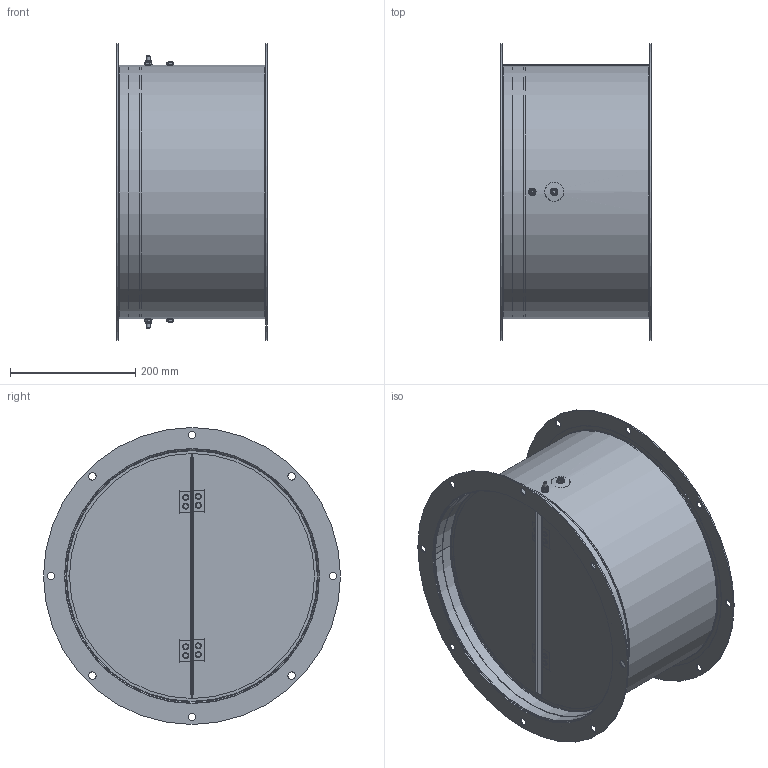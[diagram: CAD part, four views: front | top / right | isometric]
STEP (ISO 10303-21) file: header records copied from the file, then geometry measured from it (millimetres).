
FILE_DESCRIPTION(/* description */ ('Backdraft shutter KZD-630 SE'),/* implementation_level */ '2;1');
FILE_NAME(/* name */ 'Y:\VaultRobocze\Designs\2\0\04\900 550\2 004 900 550 1.stp',/* time_stamp */ '2018-03-30T10:36:00+02:00',/* author */ ('TomaszCie'),/* organization */ (''),/* preprocessor_version */ 'ST-DEVELOPER v16.13',/* originating_system */ 'Autodesk Inventor 2018',/* authorisation */ '');
FILE_SCHEMA (('AUTOMOTIVE_DESIGN { 1 0 10303 214 3 1 1 }'));
Length unit declared in the file: millimetre
Products named in the file (17): 2 004 900 550 1; DIN 7337 - A4,8 x 8,5 x 2 BRALO; 2 004 900 351 1; 2 004 900 352 1; 2 004 901 550; 2 004 902 351; 2 004 901 551; 2 004 901 553; 2 004 901 552; DIN 985 - M6; DIN 6799 - 5; 2 004 900 323; DIN 933 - M6  x 30; DIN 439 - M6; Wibroizolator RFHT; DIN 125 - A 6,4; Sprężyna skrętna fi0,5 EN10270
-01 L=16mm, H=25mm
Assembly tree (41 placements, depth 3):
  2 004 900 550 1
    DIN 7337 - A4,8 x 8,5 x 2 BRALO  x8
    2 004 900 351 1
    2 004 900 352 1  x2
    2 004 901 550
      2 004 902 351  x2
      2 004 901 551
      2 004 901 553
      2 004 901 552
    DIN 439 - M6  x3
    DIN 125 - A 6,4  x7
    DIN 985 - M6  x2
    DIN 6799 - 5  x2
    2 004 900 323  x4
    DIN 933 - M6  x 30  x2
    Wibroizolator RFHT  x2
    Sprężyna skrętna fi0,5 EN10270
-01 L=16mm, H=25mm  x2
Bounding box: 240 x 474 x 474 mm (x, y, z)
Volume: 571933.1 mm3; surface area: 1205795.5 mm2
Topology: 40 solids, 40 shells, 572 faces, 1305 edges, 839 vertices
Faces by surface type: plane 293, cylinder 215, cone 40, torus 14, bspline 10
Full cylindrical faces by diameter (mm): 0.5 x4, 4.8 x8, 4.9 x8, 4.917 x5, 5 x2, 5.2 x8, 5.459 x2, 6 x5, 6.4 x7, 6.5 x12, 8.1 x2, 8.7 x2, 8.9 x2, 9.5 x8, 12 x23, 30 x2, 407 x2, 474 x2
Entity records: 9855 total; most frequent: CARTESIAN_POINT 3814, DIRECTION 1221, ORIENTED_EDGE 964, AXIS2_PLACEMENT_3D 502, EDGE_CURVE 482, EDGE_LOOP 353, VERTEX_POINT 337, FACE_OUTER_BOUND 239
